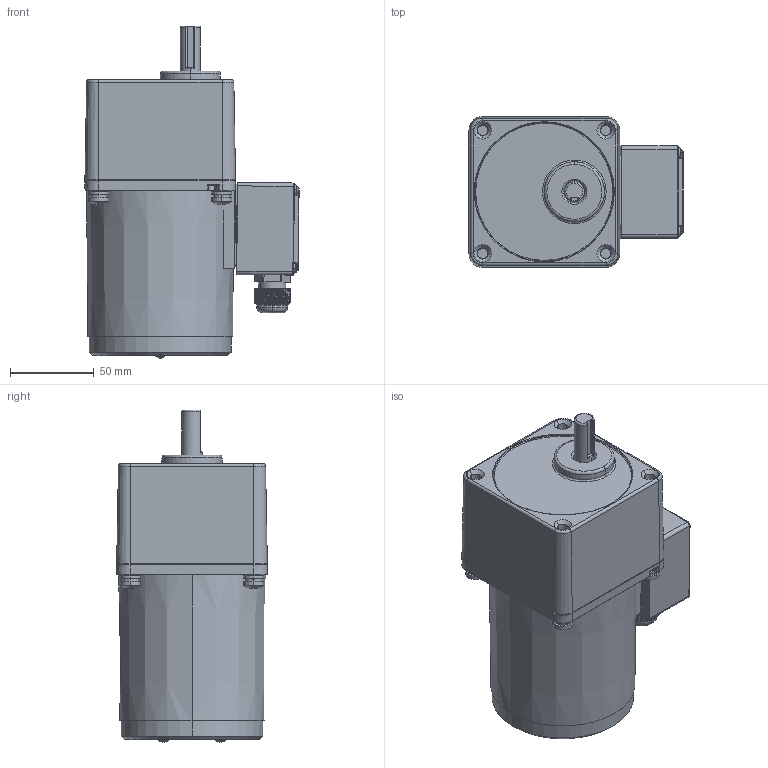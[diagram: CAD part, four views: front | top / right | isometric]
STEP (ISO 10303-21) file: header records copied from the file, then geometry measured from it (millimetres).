
FILE_DESCRIPTION (( 'STEP AP203' ), '1' );
FILE_NAME ('5RK40GN-CT(5GN3K-200K).STEP', '2020-04-09T03:06:21', ( 'Windows 蚚誧' ), ( '' ), 'SwSTEP 2.0', 'SolidWorks 2019', '' );
FILE_SCHEMA (( 'CONFIG_CONTROL_DESIGN' ));
Length unit declared in the file: millimetre
Products named in the file (15): M3^3IK15GN-CT(3GN3K-200K）(2)_JXH-1; 5GN3K‵200K; PRT0002^3IK15GN-CT(3GN3K-200K）(2)_JXH-1; 5IK40GN-CT(5GN3K-200K); PRT0003^3IK15GN-CT(3GN3K-200K）(2)_JXH-1; 90ZNGB; PRT0004^3IK15GN-CT(3GN3K-200K）(2)_JXH-1; M3; 9040TSJXHJK; 3IK15GN-CT(3GN3K-200K）(2)^JXH-1; 5RK40GN-CT(5GN3K-200K); 4IK25GN-CT_8^3IK15GN-CT(3GN3K-200K）(2)_JXH-1; JXH-1; SJQ^3IK15GN-CT(3GN3K-200K）(2)_JXH-1; 5IK40A-CT
Assembly tree (15 placements, depth 6):
  5RK40GN-CT(5GN3K-200K)
    5IK40GN-CT(5GN3K-200K)
      5IK40A-CT
        9040TSJXHJK
        JXH-1
          3IK15GN-CT(3GN3K-200K）(2)^JXH-1
            4IK25GN-CT_8^3IK15GN-CT(3GN3K-200K）(2)_JXH-1
            SJQ^3IK15GN-CT(3GN3K-200K）(2)_JXH-1
            M3^3IK15GN-CT(3GN3K-200K）(2)_JXH-1
            PRT0002^3IK15GN-CT(3GN3K-200K）(2)_JXH-1
            PRT0003^3IK15GN-CT(3GN3K-200K）(2)_JXH-1
            PRT0004^3IK15GN-CT(3GN3K-200K）(2)_JXH-1
      5GN3K‵200K
    90ZNGB
    M3  x2
Bounding box: 127.95 x 90 x 198.35 mm (x, y, z)
Volume: 744551.9 mm3; surface area: 166447.8 mm2
Topology: 41 solids, 42 shells, 2043 faces, 5218 edges, 3272 vertices
Faces by surface type: cylinder 678, cone 543, plane 540, torus 156, sphere 78, bspline 48
Entity records: 65869 total; most frequent: CARTESIAN_POINT 17420, DIRECTION 10502, ORIENTED_EDGE 9668, EDGE_CURVE 4834, AXIS2_PLACEMENT_3D 4361, VERTEX_POINT 3060, CIRCLE 2473, EDGE_LOOP 2010
